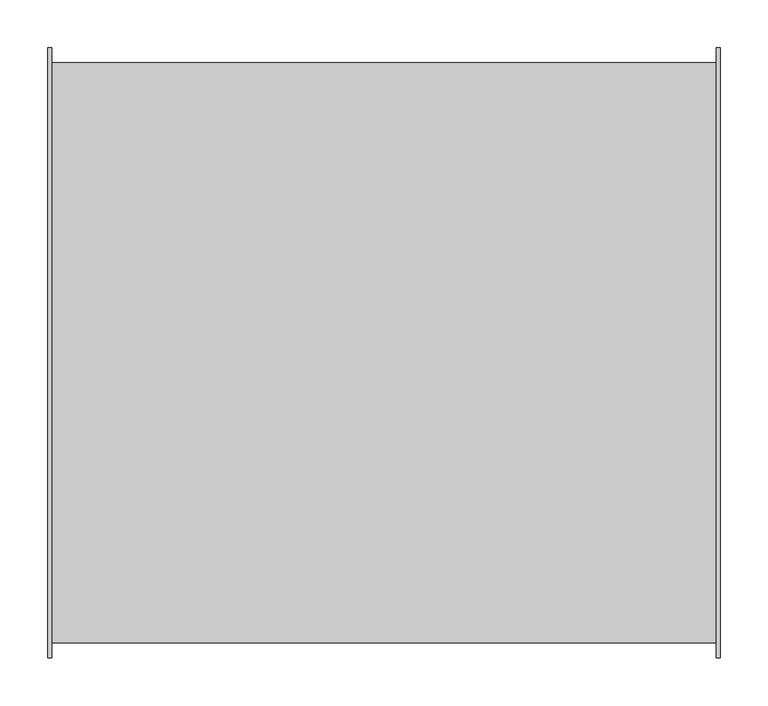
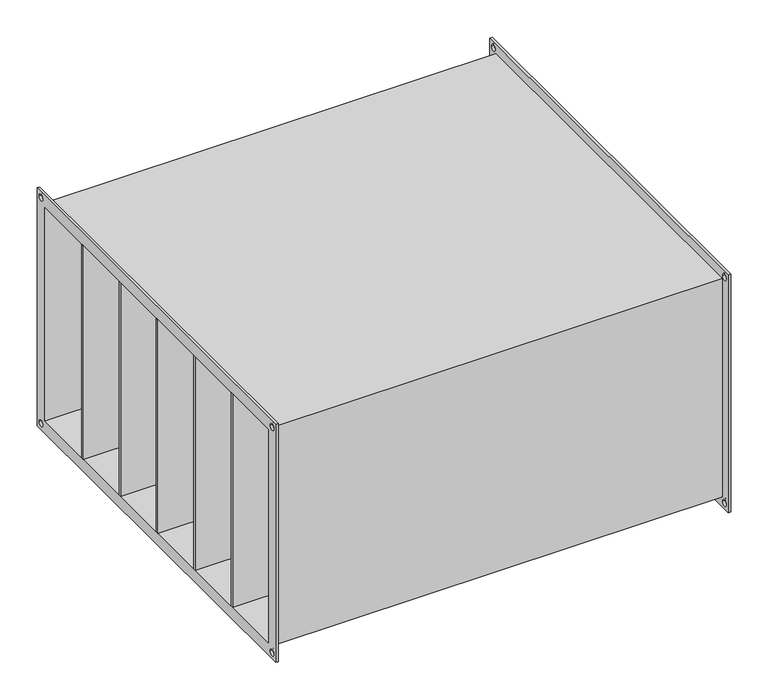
"""IFC4 building model written with IfcOpenShell, lengths in millimetres: damper geometry, СВ_ФильтрКарманный_КанальныйПрямоугольный_200-1000_SFPK : SFPK-600x350."""

from ifc_helpers import new_model, si_unit, frame, origin, place, context, project, spatial, polyline, circle_curve, outline, extrude, source, transform, mapped, element, save
from ifc_brep_helpers import plane_surface, revolved_surface, advanced_brep


def damper_6a134a28(model_context):
    return source(origin(), model_context, "Body", "SolidModel", [
        extrude(outline(polyline([(352.5, 200.0), (352.5, 196.0), (-352.5, 196.0), (-352.5, 200.0), (352.5, 200.0)])), frame((0.0, 0.0, -175.0), z_axis=(0.0, 0.0, 1.0), x_axis=(1.0, 0.0, 0.0)), (0.0, 0.0, 1.0), 350.0),
        extrude(outline(polyline([(352.5, 100.0), (352.5, 96.0), (-352.5, 96.0), (-352.5, 100.0), (352.5, 100.0)])), frame((0.0, 0.0, -175.0), z_axis=(0.0, 0.0, 1.0), x_axis=(1.0, 0.0, 0.0)), (0.0, 0.0, 1.0), 350.0),
        extrude(outline(polyline([(352.5, 0.0), (352.5, -4.0), (-352.5, -4.0), (-352.5, 0.0), (352.5, 0.0)])), frame((0.0, 0.0, -175.0), z_axis=(0.0, 0.0, 1.0), x_axis=(1.0, 0.0, 0.0)), (0.0, 0.0, 1.0), 350.0),
        extrude(outline(polyline([(352.5, -100.0), (352.5, -104.0), (-352.5, -104.0), (-352.5, -100.0), (352.5, -100.0)])), frame((0.0, 0.0, -175.0), z_axis=(0.0, 0.0, 1.0), x_axis=(1.0, 0.0, 0.0)), (0.0, 0.0, 1.0), 350.0),
        extrude(outline(polyline([(352.5, -200.0), (352.5, -204.0), (-352.5, -204.0), (-352.5, -200.0), (352.5, -200.0)])), frame((0.0, 0.0, -175.0), z_axis=(0.0, 0.0, 1.0), x_axis=(1.0, 0.0, 0.0)), (0.0, 0.0, 1.0), 350.0),
        advanced_brep(
        [(348.5, -304.0, 179.0), (-348.5, -304.0, 179.0), (-348.5, -304.0, -179.0), (348.5, -304.0, -179.0), (-348.5, 304.0, -179.0), (348.5, 304.0, -179.0), (-348.5, 304.0, 179.0), (348.5, 304.0, 179.0), (-352.5, -320.0, 195.0), (-352.5, 320.0, 195.0), (-352.5, 320.0, -195.0), (-352.5, -320.0, -195.0), (-352.5, -300.0, 175.0), (-352.5, -300.0, -175.0), (-352.5, 300.0, -175.0), (-352.5, 300.0, 175.0), (-352.5, 305.0, 185.0), (-352.5, 315.0, 185.0), (-352.5, -315.0, 185.0), (-352.5, -305.0, 185.0), (-352.5, -315.0, -185.0), (-352.5, -305.0, -185.0), (-352.5, 305.0, -185.0), (-352.5, 315.0, -185.0), (-348.5, -320.0, 195.0), (-348.5, -320.0, -195.0), (-348.5, 320.0, -195.0), (-348.5, 320.0, 195.0), (-348.5, 315.0, 185.0), (-348.5, 305.0, 185.0), (-348.5, -305.0, 185.0), (-348.5, -315.0, 185.0), (-348.5, -305.0, -185.0), (-348.5, -315.0, -185.0), (-348.5, 315.0, -185.0), (-348.5, 305.0, -185.0), (348.5, 320.0, 195.0), (348.5, 320.0, -195.0), (348.5, -320.0, -195.0), (348.5, -320.0, 195.0), (348.5, 305.0, 185.0), (348.5, 315.0, 185.0), (348.5, -315.0, 185.0), (348.5, -305.0, 185.0), (348.5, -315.0, -185.0), (348.5, -305.0, -185.0), (348.5, 305.0, -185.0), (348.5, 315.0, -185.0), (352.5, 320.0, 195.0), (352.5, -320.0, 195.0), (352.5, -320.0, -195.0), (352.5, 320.0, -195.0), (352.5, 300.0, 175.0), (352.5, 300.0, -175.0), (352.5, -300.0, -175.0), (352.5, -300.0, 175.0), (352.5, 315.0, 185.0), (352.5, 305.0, 185.0), (352.5, -305.0, 185.0), (352.5, -315.0, 185.0), (352.5, -305.0, -185.0), (352.5, -315.0, -185.0), (352.5, 315.0, -185.0), (352.5, 305.0, -185.0)],
        [
            (0, 1),
            (1, 2),
            (2, 3),
            (3, 0),
            (2, 4),
            (4, 5),
            (5, 3),
            (4, 6),
            (6, 7),
            (7, 5),
            (0, 7),
            (6, 1),
            (8, 9),
            (9, 10),
            (10, 11),
            (11, 8),
            (12, 13),
            (13, 14),
            (14, 15),
            (15, 12),
            (16, 17, circle_curve(frame((-352.5, 310.0, 185.0), z_axis=(1.0, 0.0, 0.0), x_axis=(0.0, 1.0, 0.0)), 5.0)),
            (17, 16, circle_curve(frame((-352.5, 310.0, 185.0), z_axis=(1.0, 0.0, 0.0), x_axis=(0.0, 1.0, 0.0)), 5.0)),
            (18, 19, circle_curve(frame((-352.5, -310.0, 185.0), z_axis=(1.0, 0.0, 0.0), x_axis=(0.0, 1.0, 0.0)), 5.0)),
            (19, 18, circle_curve(frame((-352.5, -310.0, 185.0), z_axis=(1.0, 0.0, 0.0), x_axis=(0.0, 1.0, 0.0)), 5.0)),
            (20, 21, circle_curve(frame((-352.5, -310.0, -185.0), z_axis=(1.0, 0.0, 0.0), x_axis=(0.0, 1.0, 0.0)), 5.0)),
            (21, 20, circle_curve(frame((-352.5, -310.0, -185.0), z_axis=(1.0, 0.0, 0.0), x_axis=(0.0, 1.0, 0.0)), 5.0)),
            (22, 23, circle_curve(frame((-352.5, 310.0, -185.0), z_axis=(1.0, 0.0, 0.0), x_axis=(0.0, 1.0, 0.0)), 5.0)),
            (23, 22, circle_curve(frame((-352.5, 310.0, -185.0), z_axis=(1.0, 0.0, 0.0), x_axis=(0.0, 1.0, 0.0)), 5.0)),
            (24, 25),
            (25, 26),
            (26, 27),
            (27, 24),
            (28, 29, circle_curve(frame((-348.5, 310.0, 185.0), z_axis=(-1.0, 0.0, 0.0), x_axis=(0.0, 1.0, 0.0)), 5.0)),
            (29, 28, circle_curve(frame((-348.5, 310.0, 185.0), z_axis=(-1.0, 0.0, 0.0), x_axis=(0.0, 1.0, 0.0)), 5.0)),
            (30, 31, circle_curve(frame((-348.5, -310.0, 185.0), z_axis=(-1.0, 0.0, 0.0), x_axis=(0.0, 1.0, 0.0)), 5.0)),
            (31, 30, circle_curve(frame((-348.5, -310.0, 185.0), z_axis=(-1.0, 0.0, 0.0), x_axis=(0.0, 1.0, 0.0)), 5.0)),
            (32, 33, circle_curve(frame((-348.5, -310.0, -185.0), z_axis=(-1.0, 0.0, 0.0), x_axis=(0.0, 1.0, 0.0)), 5.0)),
            (33, 32, circle_curve(frame((-348.5, -310.0, -185.0), z_axis=(-1.0, 0.0, 0.0), x_axis=(0.0, 1.0, 0.0)), 5.0)),
            (34, 35, circle_curve(frame((-348.5, 310.0, -185.0), z_axis=(-1.0, 0.0, 0.0), x_axis=(0.0, 1.0, 0.0)), 5.0)),
            (35, 34, circle_curve(frame((-348.5, 310.0, -185.0), z_axis=(-1.0, 0.0, 0.0), x_axis=(0.0, 1.0, 0.0)), 5.0)),
            (11, 25),
            (24, 8),
            (10, 26),
            (9, 27),
            (36, 37),
            (37, 38),
            (38, 39),
            (39, 36),
            (40, 41, circle_curve(frame((348.5, 310.0, 185.0), z_axis=(1.0, 0.0, 0.0), x_axis=(0.0, 1.0, 0.0)), 5.0)),
            (41, 40, circle_curve(frame((348.5, 310.0, 185.0), z_axis=(1.0, 0.0, 0.0), x_axis=(0.0, 1.0, 0.0)), 5.0)),
            (42, 43, circle_curve(frame((348.5, -310.0, 185.0), z_axis=(1.0, 0.0, 0.0), x_axis=(0.0, 1.0, 0.0)), 5.0)),
            (43, 42, circle_curve(frame((348.5, -310.0, 185.0), z_axis=(1.0, 0.0, 0.0), x_axis=(0.0, 1.0, 0.0)), 5.0)),
            (44, 45, circle_curve(frame((348.5, -310.0, -185.0), z_axis=(1.0, 0.0, 0.0), x_axis=(0.0, 1.0, 0.0)), 5.0)),
            (45, 44, circle_curve(frame((348.5, -310.0, -185.0), z_axis=(1.0, 0.0, 0.0), x_axis=(0.0, 1.0, 0.0)), 5.0)),
            (46, 47, circle_curve(frame((348.5, 310.0, -185.0), z_axis=(1.0, 0.0, 0.0), x_axis=(0.0, 1.0, 0.0)), 5.0)),
            (47, 46, circle_curve(frame((348.5, 310.0, -185.0), z_axis=(1.0, 0.0, 0.0), x_axis=(0.0, 1.0, 0.0)), 5.0)),
            (48, 49),
            (49, 50),
            (50, 51),
            (51, 48),
            (52, 53),
            (53, 54),
            (54, 55),
            (55, 52),
            (56, 57, circle_curve(frame((352.5, 310.0, 185.0), z_axis=(-1.0, 0.0, 0.0), x_axis=(0.0, 1.0, 0.0)), 5.0)),
            (57, 56, circle_curve(frame((352.5, 310.0, 185.0), z_axis=(-1.0, 0.0, 0.0), x_axis=(0.0, 1.0, 0.0)), 5.0)),
            (58, 59, circle_curve(frame((352.5, -310.0, 185.0), z_axis=(-1.0, 0.0, 0.0), x_axis=(0.0, 1.0, 0.0)), 5.0)),
            (59, 58, circle_curve(frame((352.5, -310.0, 185.0), z_axis=(-1.0, 0.0, 0.0), x_axis=(0.0, 1.0, 0.0)), 5.0)),
            (60, 61, circle_curve(frame((352.5, -310.0, -185.0), z_axis=(-1.0, 0.0, 0.0), x_axis=(0.0, 1.0, 0.0)), 5.0)),
            (61, 60, circle_curve(frame((352.5, -310.0, -185.0), z_axis=(-1.0, 0.0, 0.0), x_axis=(0.0, 1.0, 0.0)), 5.0)),
            (62, 63, circle_curve(frame((352.5, 310.0, -185.0), z_axis=(-1.0, 0.0, 0.0), x_axis=(0.0, 1.0, 0.0)), 5.0)),
            (63, 62, circle_curve(frame((352.5, 310.0, -185.0), z_axis=(-1.0, 0.0, 0.0), x_axis=(0.0, 1.0, 0.0)), 5.0)),
            (39, 49),
            (48, 36),
            (38, 50),
            (37, 51),
            (15, 52),
            (55, 12),
            (14, 53),
            (13, 54),
            (16, 29),
            (28, 17),
            (40, 57),
            (56, 41),
            (18, 31),
            (30, 19),
            (42, 59),
            (58, 43),
            (20, 33),
            (32, 21),
            (44, 61),
            (60, 45),
            (22, 35),
            (34, 23),
            (46, 63),
            (62, 47),
        ],
        [
            plane_surface(frame((348.5, -304.0, 179.0), z_axis=(0.0, -1.0, 0.0), x_axis=(-1.0, 0.0, 0.0))),
            plane_surface(frame((348.5, -304.0, -179.0), z_axis=(0.0, 0.0, -1.0), x_axis=(-1.0, 0.0, 0.0))),
            plane_surface(frame((348.5, 304.0, -179.0), z_axis=(0.0, 1.0, 0.0), x_axis=(-1.0, 0.0, 0.0))),
            plane_surface(frame((348.5, 304.0, 179.0), z_axis=(0.0, 0.0, 1.0), x_axis=(-1.0, 0.0, 0.0))),
            plane_surface(frame((-352.5, -320.0, 195.0), z_axis=(-1.0, 0.0, 0.0), x_axis=(0.0, 0.0, 1.0))),
            plane_surface(frame((-348.5, -320.0, 195.0), z_axis=(1.0, 0.0, 0.0), x_axis=(0.0, 0.0, -1.0))),
            plane_surface(frame((-348.5, -320.0, 195.0), z_axis=(0.0, -1.0, 0.0), x_axis=(-1.0, 0.0, 0.0))),
            plane_surface(frame((-348.5, -320.0, -195.0), z_axis=(0.0, 0.0, -1.0), x_axis=(-1.0, 0.0, 0.0))),
            plane_surface(frame((-348.5, 320.0, -195.0), z_axis=(0.0, 1.0, 0.0), x_axis=(-1.0, 0.0, 0.0))),
            plane_surface(frame((-348.5, 320.0, 195.0), z_axis=(0.0, 0.0, 1.0), x_axis=(-1.0, 0.0, 0.0))),
            plane_surface(frame((348.5, 300.0, -175.0), z_axis=(-1.0, 0.0, 0.0), x_axis=(0.0, 0.0, 1.0))),
            plane_surface(frame((352.5, 300.0, -175.0), z_axis=(1.0, 0.0, 0.0), x_axis=(0.0, 0.0, -1.0))),
            plane_surface(frame((352.5, 320.0, 195.0), z_axis=(0.0, 0.0, 1.0), x_axis=(-1.0, 0.0, 0.0))),
            plane_surface(frame((352.5, -320.0, 195.0), z_axis=(0.0, -1.0, 0.0), x_axis=(-1.0, 0.0, 0.0))),
            plane_surface(frame((352.5, -320.0, -195.0), z_axis=(0.0, 0.0, -1.0), x_axis=(-1.0, 0.0, 0.0))),
            plane_surface(frame((352.5, 320.0, -195.0), z_axis=(0.0, 1.0, 0.0), x_axis=(-1.0, 0.0, 0.0))),
            plane_surface(frame((-348.5, -300.0, 175.0), z_axis=(0.0, 0.0, -1.0), x_axis=(-1.0, 0.0, 0.0))),
            plane_surface(frame((-348.5, 300.0, 175.0), z_axis=(0.0, -1.0, 0.0), x_axis=(-1.0, 0.0, 0.0))),
            plane_surface(frame((-348.5, 300.0, -175.0), z_axis=(0.0, 0.0, 1.0), x_axis=(-1.0, 0.0, 0.0))),
            plane_surface(frame((-348.5, -300.0, -175.0), z_axis=(0.0, 1.0, 0.0), x_axis=(-1.0, 0.0, 0.0))),
            revolved_surface(polyline([(-348.5, 315.0, 185.0), (-352.5, 315.0, 185.0)]), (-352.5, 310.0, 185.0), (1.0, 0.0, 0.0)),
            revolved_surface(polyline([(352.5, 315.0, 185.0), (348.5, 315.0, 185.0)]), (-352.5, 310.0, 185.0), (1.0, 0.0, 0.0)),
            revolved_surface(polyline([(-348.5, -305.0, 185.0), (-352.5, -305.0, 185.0)]), (0.0, -310.0, 185.0), (1.0, 0.0, 0.0)),
            revolved_surface(polyline([(352.5, -305.0, 185.0), (348.5, -305.0, 185.0)]), (0.0, -310.0, 185.0), (1.0, 0.0, 0.0)),
            revolved_surface(polyline([(-348.5, -305.0, -185.0), (-352.5, -305.0, -185.0)]), (0.0, -310.0, -185.0), (1.0, 0.0, 0.0)),
            revolved_surface(polyline([(352.5, -305.0, -185.0), (348.5, -305.0, -185.0)]), (0.0, -310.0, -185.0), (1.0, 0.0, 0.0)),
            revolved_surface(polyline([(-348.5, 315.0, -185.0), (-352.5, 315.0, -185.0)]), (0.0, 310.0, -185.0), (1.0, 0.0, 0.0)),
            revolved_surface(polyline([(352.5, 315.0, -185.0), (348.5, 315.0, -185.0)]), (0.0, 310.0, -185.0), (1.0, 0.0, 0.0)),
        ],
        [
            (0, [[1, 2, 3, 4]]),
            (1, [[-3, 5, 6, 7]]),
            (2, [[-6, 8, 9, 10]]),
            (3, [[-1, 11, -9, 12]]),
            (4, [[13, 14, 15, 16], [17, 18, 19, 20], [21, 22], [23, 24], [25, 26], [27, 28]]),
            (5, [[29, 30, 31, 32], [-2, -12, -8, -5], [33, 34], [35, 36], [37, 38], [39, 40]]),
            (6, [[-16, 41, -29, 42]]),
            (7, [[-15, 43, -30, -41]]),
            (8, [[-14, 44, -31, -43]]),
            (9, [[-13, -42, -32, -44]]),
            (10, [[45, 46, 47, 48], [-4, -7, -10, -11], [49, 50], [51, 52], [53, 54], [55, 56]]),
            (11, [[57, 58, 59, 60], [61, 62, 63, 64], [65, 66], [67, 68], [69, 70], [71, 72]]),
            (12, [[-48, 73, -57, 74]]),
            (13, [[-47, 75, -58, -73]]),
            (14, [[-46, 76, -59, -75]]),
            (15, [[-45, -74, -60, -76]]),
            (16, [[-20, 77, -64, 78]]),
            (17, [[-77, -19, 79, -61]]),
            (18, [[-79, -18, 80, -62]]),
            (19, [[-80, -17, -78, -63]]),
            (20, [[81, -33, 82, -21]]),
            (21, [[83, -65, 84, -49]]),
            (20, [[-81, -22, -82, -34]]),
            (21, [[-83, -50, -84, -66]]),
            (22, [[85, -35, 86, -23]]),
            (23, [[87, -67, 88, -51]]),
            (22, [[-85, -24, -86, -36]]),
            (23, [[-87, -52, -88, -68]]),
            (24, [[89, -37, 90, -25]]),
            (25, [[91, -69, 92, -53]]),
            (24, [[-89, -26, -90, -38]]),
            (25, [[-91, -54, -92, -70]]),
            (26, [[93, -39, 94, -27]]),
            (27, [[95, -71, 96, -55]]),
            (26, [[-93, -28, -94, -40]]),
            (27, [[-95, -56, -96, -72]]),
        ],
    ),
    ])


if __name__ == "__main__":
    model = new_model("IFC4")
    model_context = context("Model", 3, world=origin())
    ifc_project = project(units=[si_unit("LENGTHUNIT", "METRE", prefix="MILLI")], contexts=[model_context])
    site = spatial("IfcSite", under=ifc_project)
    building = spatial("IfcBuilding", under=site)
    placement = place(None, origin())
    damper_shape = damper_6a134a28(model_context)
    element("IfcDamper", 1, ObjectType="СВ_ФильтрКарманный_КанальныйПрямоугольный_200-1000_SFPK : SFPK-600x350", at=placement, inside=building, context=model_context, shape_type="MappedRepresentation", body=[
        mapped(damper_shape, transform((0.0, 0.0, 0.0), x_axis=(1.0, 0.0, 0.0), y_axis=(0.0, 1.0, 0.0), z_axis=(0.0, 0.0, 1.0))),
    ])
    save(model, "model.ifc")
